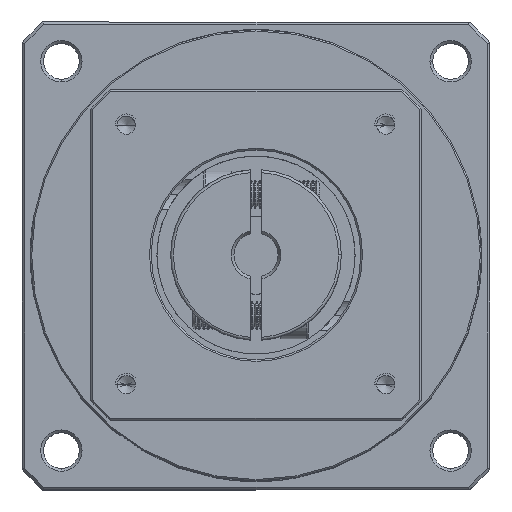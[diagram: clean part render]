
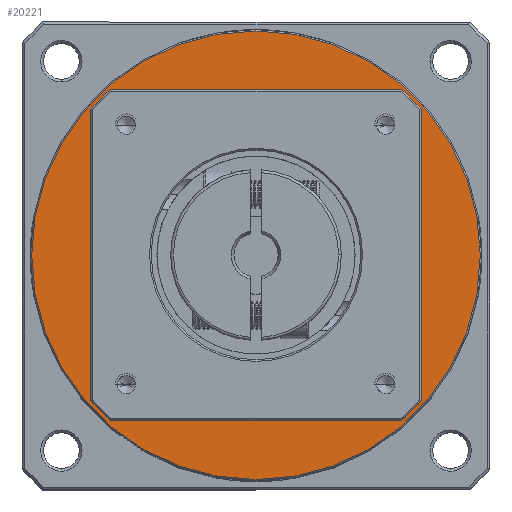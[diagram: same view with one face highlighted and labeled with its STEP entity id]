
A CAD part, top view. The second image highlights one B-rep face of the part: STEP entity #20221.
In plain terms, the highlighted planar face has unit normal (0, 0, 1).
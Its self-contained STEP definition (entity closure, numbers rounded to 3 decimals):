
#2039 = EDGE_LOOP ( 'NONE', ( #66848, #47924 ) ) ;
#3864 = EDGE_CURVE ( 'NONE', #37813, #97506, #107493, .T. ) ;
#6366 = DIRECTION ( 'NONE',  ( -1., 0., 0. ) ) ;
#9592 = DIRECTION ( 'NONE',  ( 0., 0., -1. ) ) ;
#11730 = EDGE_LOOP ( 'NONE', ( #67167, #99338 ) ) ;
#11931 = CIRCLE ( 'NONE', #58999, 30. ) ;
#18016 = DIRECTION ( 'NONE',  ( 0., 0., -1. ) ) ;
#19043 = PLANE ( 'NONE',  #89209 ) ;
#20221 = ADVANCED_FACE ( 'NONE', ( #105340, #85860 ), #19043, .T. ) ;
#22675 = CARTESIAN_POINT ( 'NONE',  ( -93.009, 20.516, -20.918 ) ) ;
#26026 = CARTESIAN_POINT ( 'NONE',  ( -22.259, 20.516, -20.918 ) ) ;
#26263 = CARTESIAN_POINT ( 'NONE',  ( -33.009, 20.516, -20.918 ) ) ;
#28107 = DIRECTION ( 'NONE',  ( 0., 0., 1. ) ) ;
#37606 = AXIS2_PLACEMENT_3D ( 'NONE', #96472, #46858, #104879 ) ;
#37813 = VERTEX_POINT ( 'NONE', #26263 ) ;
#39351 = CIRCLE ( 'NONE', #101099, 40.75 ) ;
#42509 = AXIS2_PLACEMENT_3D ( 'NONE', #105834, #56173, #6366 ) ;
#44437 = CIRCLE ( 'NONE', #37606, 40.75 ) ;
#46858 = DIRECTION ( 'NONE',  ( 0., 0., -1. ) ) ;
#47924 = ORIENTED_EDGE ( 'NONE', *, *, #79317, .F. ) ;
#56173 = DIRECTION ( 'NONE',  ( 0., 0., -1. ) ) ;
#58999 = AXIS2_PLACEMENT_3D ( 'NONE', #67607, #18016, #75910 ) ;
#59330 = CARTESIAN_POINT ( 'NONE',  ( -63.009, 20.516, -20.918 ) ) ;
#65944 = EDGE_CURVE ( 'NONE', #107153, #86952, #44437, .T. ) ;
#66848 = ORIENTED_EDGE ( 'NONE', *, *, #65944, .F. ) ;
#67167 = ORIENTED_EDGE ( 'NONE', *, *, #76104, .T. ) ;
#67607 = CARTESIAN_POINT ( 'NONE',  ( -63.009, 20.516, -20.918 ) ) ;
#67632 = DIRECTION ( 'NONE',  ( -1., 0., 0. ) ) ;
#75910 = DIRECTION ( 'NONE',  ( -1., 0., 0. ) ) ;
#76104 = EDGE_CURVE ( 'NONE', #97506, #37813, #11931, .T. ) ;
#77685 = CARTESIAN_POINT ( 'NONE',  ( -63.009, 20.516, -20.918 ) ) ;
#79317 = EDGE_CURVE ( 'NONE', #86952, #107153, #39351, .T. ) ;
#85860 = FACE_BOUND ( 'NONE', #11730, .T. ) ;
#86066 = DIRECTION ( 'NONE',  ( 1., 0., 0. ) ) ;
#86952 = VERTEX_POINT ( 'NONE', #26026 ) ;
#89209 = AXIS2_PLACEMENT_3D ( 'NONE', #77685, #28107, #86066 ) ;
#96472 = CARTESIAN_POINT ( 'NONE',  ( -63.009, 20.516, -20.918 ) ) ;
#97506 = VERTEX_POINT ( 'NONE', #22675 ) ;
#97964 = CARTESIAN_POINT ( 'NONE',  ( -103.759, 20.516, -20.918 ) ) ;
#99338 = ORIENTED_EDGE ( 'NONE', *, *, #3864, .T. ) ;
#101099 = AXIS2_PLACEMENT_3D ( 'NONE', #59330, #9592, #67632 ) ;
#104879 = DIRECTION ( 'NONE',  ( -1., 0., 0. ) ) ;
#105340 = FACE_OUTER_BOUND ( 'NONE', #2039, .T. ) ;
#105834 = CARTESIAN_POINT ( 'NONE',  ( -63.009, 20.516, -20.918 ) ) ;
#107153 = VERTEX_POINT ( 'NONE', #97964 ) ;
#107493 = CIRCLE ( 'NONE', #42509, 30. ) ;
